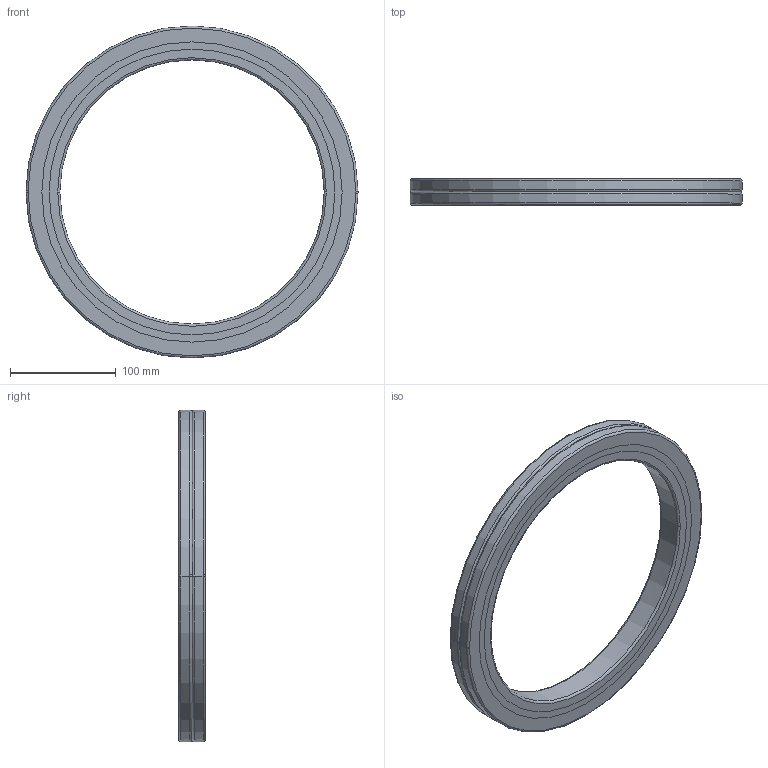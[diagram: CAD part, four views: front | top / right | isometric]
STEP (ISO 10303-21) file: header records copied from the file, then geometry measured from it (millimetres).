
FILE_DESCRIPTION(('no description'),'unknown implementation level');
FILE_NAME('CRBA25025_44.stp',' ',('HIWIN GmbH'),('CADClick - KiM GmbH - www.kimweb.de'),'unknown preprocess','ACIS','unknown authorization');
FILE_SCHEMA(('automotive_design'));
Length unit declared in the file: millimetre
Products named in the file (5): CRBA25025_1; CRBA25025_2; CRBA25025_3; CRBA25025_4; CRBA25025
Bounding box: 314 x 25 x 314 mm (x, y, z)
Volume: 585577.1 mm3; surface area: 188531.4 mm2
Topology: 5 solids, 5 shells, 54 faces, 120 edges, 76 vertices
Faces by surface type: torus 24, cylinder 20, plane 10
Entity records: 3096 total; most frequent: DIRECTION 338, STYLED_ITEM 255, PRESENTATION_STYLE_ASSIGNMENT 255, CARTESIAN_POINT 255, COLOUR_RGB 255, ORIENTED_EDGE 240, AXIS2_PLACEMENT_3D 159, EDGE_CURVE 120
